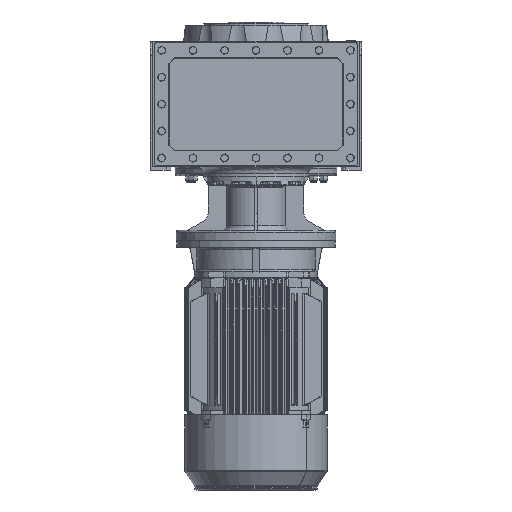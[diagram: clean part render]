
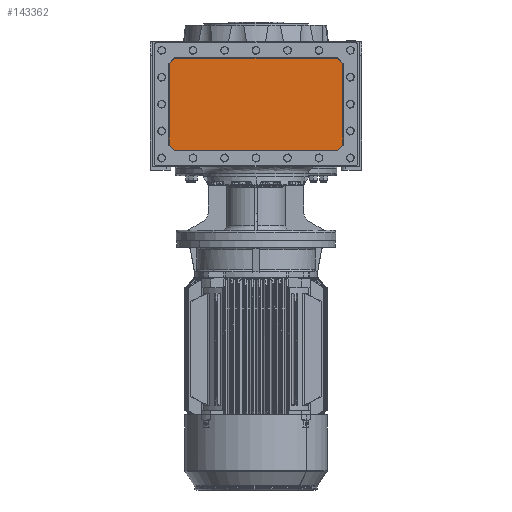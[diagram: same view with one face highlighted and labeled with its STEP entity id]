
A CAD part, front view. The second image highlights one B-rep face of the part: STEP entity #143362.
In plain terms, the highlighted planar face has unit normal (0, -1, 0).
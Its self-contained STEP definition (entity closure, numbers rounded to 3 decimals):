
#1340 = CARTESIAN_POINT ( 'NONE',  ( 190.196, -195., -83.083 ) ) ;
#1370 = CARTESIAN_POINT ( 'NONE',  ( -178.667, -195., -71.554 ) ) ;
#1384 = CARTESIAN_POINT ( 'NONE',  ( -190.196, -195., -83.083 ) ) ;
#1392 = CARTESIAN_POINT ( 'NONE',  ( -190.196, -195., -262.417 ) ) ;
#1418 = CARTESIAN_POINT ( 'NONE',  ( 190.196, -195., -262.417 ) ) ;
#1420 = CARTESIAN_POINT ( 'NONE',  ( -178.667, -195., -273.946 ) ) ;
#1426 = CARTESIAN_POINT ( 'NONE',  ( 178.667, -195., -71.554 ) ) ;
#1523 = CARTESIAN_POINT ( 'NONE',  ( 178.667, -195., -273.946 ) ) ;
#16859 = VERTEX_POINT ( 'NONE', #1392 ) ;
#16862 = VERTEX_POINT ( 'NONE', #1340 ) ;
#16906 = VERTEX_POINT ( 'NONE', #1370 ) ;
#16921 = VERTEX_POINT ( 'NONE', #1418 ) ;
#16924 = VERTEX_POINT ( 'NONE', #1420 ) ;
#16958 = VERTEX_POINT ( 'NONE', #1384 ) ;
#16961 = VERTEX_POINT ( 'NONE', #1426 ) ;
#17084 = VERTEX_POINT ( 'NONE', #1523 ) ;
#17231 = FACE_OUTER_BOUND ( 'NONE', #68359, .T. ) ;
#22304 = DIRECTION ( 'NONE',  ( 0., 0., 1. ) ) ;
#22312 = CARTESIAN_POINT ( 'NONE',  ( -190.196, -195., -82.75 ) ) ;
#22317 = CARTESIAN_POINT ( 'NONE',  ( -179., -195., -71.554 ) ) ;
#22327 = DIRECTION ( 'NONE',  ( 1., 0., 0. ) ) ;
#23418 = ORIENTED_EDGE ( 'NONE', *, *, #64105, .F. ) ;
#23422 = ORIENTED_EDGE ( 'NONE', *, *, #63910, .F. ) ;
#23423 = ORIENTED_EDGE ( 'NONE', *, *, #64146, .F. ) ;
#23432 = ORIENTED_EDGE ( 'NONE', *, *, #64438, .F. ) ;
#23434 = ORIENTED_EDGE ( 'NONE', *, *, #64140, .F. ) ;
#23458 = ORIENTED_EDGE ( 'NONE', *, *, #63901, .F. ) ;
#23465 = ORIENTED_EDGE ( 'NONE', *, *, #63989, .F. ) ;
#23475 = ORIENTED_EDGE ( 'NONE', *, *, #64350, .F. ) ;
#44575 = CARTESIAN_POINT ( 'NONE',  ( 178.432, -195., -71.318 ) ) ;
#44669 = DIRECTION ( 'NONE',  ( 0.707, 0., -0.707 ) ) ;
#44853 = DIRECTION ( 'NONE',  ( -0.707, 0., 0.707 ) ) ;
#44903 = CARTESIAN_POINT ( 'NONE',  ( -190.432, -195., -262.182 ) ) ;
#45246 = DIRECTION ( 'NONE',  ( 0.707, 0., 0.707 ) ) ;
#45302 = CARTESIAN_POINT ( 'NONE',  ( -178.432, -195., -71.318 ) ) ;
#45779 = CARTESIAN_POINT ( 'NONE',  ( 190.196, -195., -82.75 ) ) ;
#45786 = DIRECTION ( 'NONE',  ( 0., 0., -1. ) ) ;
#45817 = DIRECTION ( 'NONE',  ( -1., 0., 0. ) ) ;
#45858 = CARTESIAN_POINT ( 'NONE',  ( -179., -195., -273.946 ) ) ;
#45948 = DIRECTION ( 'NONE',  ( -0.707, 0., -0.707 ) ) ;
#45963 = CARTESIAN_POINT ( 'NONE',  ( 190.432, -195., -262.182 ) ) ;
#63901 = EDGE_CURVE ( 'NONE', #16859, #16958, #93091, .T. ) ;
#63910 = EDGE_CURVE ( 'NONE', #16906, #16961, #93053, .T. ) ;
#63989 = EDGE_CURVE ( 'NONE', #16958, #16906, #93204, .T. ) ;
#64105 = EDGE_CURVE ( 'NONE', #16862, #16921, #93450, .T. ) ;
#64140 = EDGE_CURVE ( 'NONE', #17084, #16924, #93575, .T. ) ;
#64146 = EDGE_CURVE ( 'NONE', #16921, #17084, #93508, .T. ) ;
#64350 = EDGE_CURVE ( 'NONE', #16961, #16862, #93912, .T. ) ;
#64438 = EDGE_CURVE ( 'NONE', #16924, #16859, #93985, .T. ) ;
#68359 = EDGE_LOOP ( 'NONE', ( #23418, #23475, #23422, #23465, #23458, #23432, #23434, #23423 ) ) ;
#73963 = PLANE ( 'NONE',  #96644 ) ;
#73995 = DIRECTION ( 'NONE',  ( 0., 0., -1. ) ) ;
#74106 = CARTESIAN_POINT ( 'NONE',  ( 0., -195., 0. ) ) ;
#74109 = DIRECTION ( 'NONE',  ( 0., -1., 0. ) ) ;
#92998 = VECTOR ( 'NONE', #22304, 1000. ) ;
#93053 = LINE ( 'NONE', #22317, #93088 ) ;
#93088 = VECTOR ( 'NONE', #22327, 1000. ) ;
#93091 = LINE ( 'NONE', #22312, #92998 ) ;
#93195 = VECTOR ( 'NONE', #45246, 1000. ) ;
#93204 = LINE ( 'NONE', #45302, #93195 ) ;
#93436 = VECTOR ( 'NONE', #45786, 1000. ) ;
#93450 = LINE ( 'NONE', #45779, #93436 ) ;
#93486 = VECTOR ( 'NONE', #45948, 1000. ) ;
#93508 = LINE ( 'NONE', #45963, #93486 ) ;
#93565 = VECTOR ( 'NONE', #45817, 1000. ) ;
#93575 = LINE ( 'NONE', #45858, #93565 ) ;
#93912 = LINE ( 'NONE', #44575, #93915 ) ;
#93915 = VECTOR ( 'NONE', #44669, 1000. ) ;
#93985 = LINE ( 'NONE', #44903, #94013 ) ;
#94013 = VECTOR ( 'NONE', #44853, 1000. ) ;
#96644 = AXIS2_PLACEMENT_3D ( 'NONE', #74106, #74109, #73995 ) ;
#143362 = ADVANCED_FACE ( 'NONE', ( #17231 ), #73963, .T. ) ;
